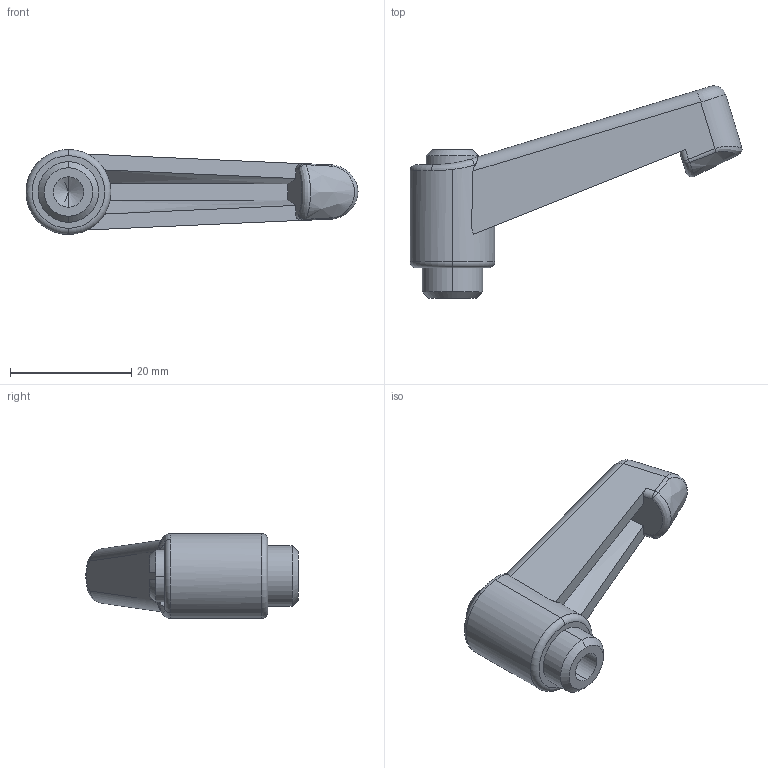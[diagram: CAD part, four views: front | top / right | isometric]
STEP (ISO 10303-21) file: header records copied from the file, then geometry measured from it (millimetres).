
FILE_DESCRIPTION (( 'STEP AP203' ), '1' );
FILE_NAME ('AS-405-45-M6.STEP', '2015-11-23T07:19:54', ( '' ), ( '' ), 'SwSTEP 2.0', 'SolidWorks 2014', '' );
FILE_SCHEMA (( 'CONFIG_CONTROL_DESIGN' ));
Length unit declared in the file: millimetre
Products named in the file (1): AS-405-45-M6
Bounding box: 54.78 x 35 x 14 mm (x, y, z)
Volume: 6658.2 mm3; surface area: 3643.1 mm2
Topology: 1 solids, 1 shells, 60 faces, 144 edges, 87 vertices
Faces by surface type: plane 18, cylinder 17, bspline 11, cone 6, torus 4, sphere 4
Entity records: 2311 total; most frequent: CARTESIAN_POINT 950, ORIENTED_EDGE 284, DIRECTION 253, EDGE_CURVE 142, AXIS2_PLACEMENT_3D 104, VERTEX_POINT 87, EDGE_LOOP 63, FACE_OUTER_BOUND 60
